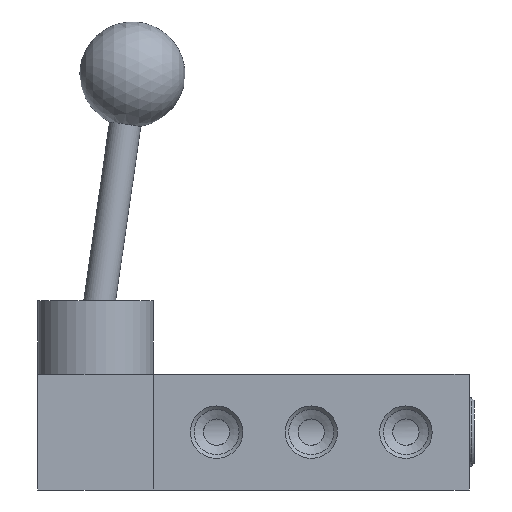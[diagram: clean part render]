
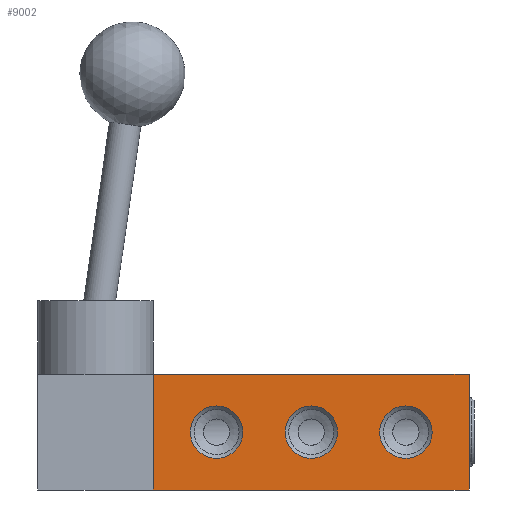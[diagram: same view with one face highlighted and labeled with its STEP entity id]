
A CAD part, front view. The second image highlights one B-rep face of the part: STEP entity #9002.
In plain terms, the highlighted planar face has unit normal (0, -1, 0).
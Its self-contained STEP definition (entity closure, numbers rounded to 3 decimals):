
#514=LINE('',#11657,#1129);
#519=LINE('',#11712,#1134);
#578=LINE('',#12150,#1193);
#579=LINE('',#12158,#1194);
#1129=VECTOR('',#10153,1000.);
#1134=VECTOR('',#10214,1000.);
#1193=VECTOR('',#10313,1000.);
#1194=VECTOR('',#10322,1000.);
#2115=ORIENTED_EDGE('',*,*,#3699,.T.);
#2116=ORIENTED_EDGE('',*,*,#3700,.T.);
#2117=ORIENTED_EDGE('',*,*,#3701,.T.);
#2118=ORIENTED_EDGE('',*,*,#3585,.T.);
#2119=ORIENTED_EDGE('',*,*,#3698,.T.);
#2120=ORIENTED_EDGE('',*,*,#3702,.F.);
#2121=ORIENTED_EDGE('',*,*,#3562,.F.);
#3562=EDGE_CURVE('',#4401,#4402,#514,.T.);
#3585=EDGE_CURVE('',#4401,#4423,#519,.T.);
#3698=EDGE_CURVE('',#4423,#4534,#578,.T.);
#3699=EDGE_CURVE('',#4535,#4535,#4964,.F.);
#3700=EDGE_CURVE('',#4536,#4536,#4965,.F.);
#3701=EDGE_CURVE('',#4537,#4537,#4966,.F.);
#3702=EDGE_CURVE('',#4402,#4534,#579,.T.);
#4401=VERTEX_POINT('',#11656);
#4402=VERTEX_POINT('',#11658);
#4423=VERTEX_POINT('',#11711);
#4534=VERTEX_POINT('',#12149);
#4535=VERTEX_POINT('',#12153);
#4536=VERTEX_POINT('',#12155);
#4537=VERTEX_POINT('',#12157);
#4964=CIRCLE('',#9474,4.983);
#4965=CIRCLE('',#9475,4.983);
#4966=CIRCLE('',#9476,4.983);
#5187=EDGE_LOOP('',(#2115));
#5188=EDGE_LOOP('',(#2116));
#5189=EDGE_LOOP('',(#2117));
#5190=EDGE_LOOP('',(#2118,#2119,#2120,#2121));
#5701=FACE_BOUND('',#5187,.T.);
#5702=FACE_BOUND('',#5188,.T.);
#5703=FACE_BOUND('',#5189,.T.);
#5704=FACE_BOUND('',#5190,.T.);
#6122=PLANE('',#9473);
#9002=ADVANCED_FACE('',(#5701,#5702,#5703,#5704),#6122,.T.);
#9473=AXIS2_PLACEMENT_3D('',#12151,#10314,#10315);
#9474=AXIS2_PLACEMENT_3D('',#12152,#10316,#10317);
#9475=AXIS2_PLACEMENT_3D('',#12154,#10318,#10319);
#9476=AXIS2_PLACEMENT_3D('',#12156,#10320,#10321);
#10153=DIRECTION('',(0.,0.,-1.));
#10214=DIRECTION('',(-1.,0.,0.));
#10313=DIRECTION('',(0.,0.,-1.));
#10314=DIRECTION('',(0.,-1.,0.));
#10315=DIRECTION('',(-1.,0.,0.));
#10316=DIRECTION('',(0.,-1.,0.));
#10317=DIRECTION('',(0.,0.,1.));
#10318=DIRECTION('',(0.,-1.,0.));
#10319=DIRECTION('',(0.,0.,1.));
#10320=DIRECTION('',(0.,-1.,0.));
#10321=DIRECTION('',(0.,0.,1.));
#10322=DIRECTION('',(-1.,0.,0.));
#11656=CARTESIAN_POINT('',(0.,-18.,11.));
#11657=CARTESIAN_POINT('',(0.,-18.,11.));
#11658=CARTESIAN_POINT('',(0.,-18.,-11.));
#11711=CARTESIAN_POINT('',(-60.,-18.,11.));
#11712=CARTESIAN_POINT('',(0.,-18.,11.));
#12149=CARTESIAN_POINT('',(-60.,-18.,-11.));
#12150=CARTESIAN_POINT('',(-60.,-18.,11.));
#12151=CARTESIAN_POINT('',(0.,-18.,11.));
#12152=CARTESIAN_POINT('',(-48.,-18.,0.));
#12153=CARTESIAN_POINT('',(-48.,-18.,4.983));
#12154=CARTESIAN_POINT('',(-30.,-18.,0.));
#12155=CARTESIAN_POINT('',(-30.,-18.,4.983));
#12156=CARTESIAN_POINT('',(-12.,-18.,0.));
#12157=CARTESIAN_POINT('',(-12.,-18.,4.983));
#12158=CARTESIAN_POINT('',(0.,-18.,-11.));
